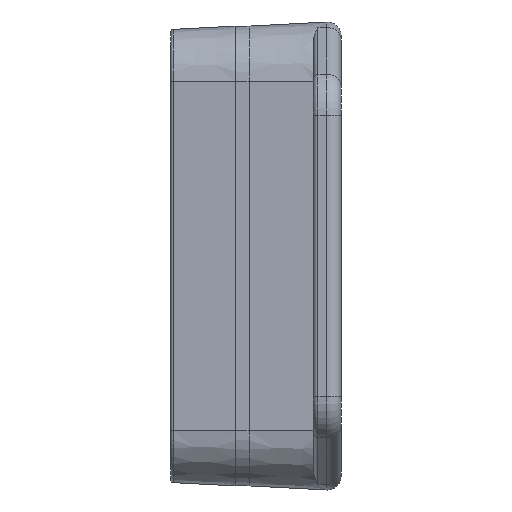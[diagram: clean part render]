
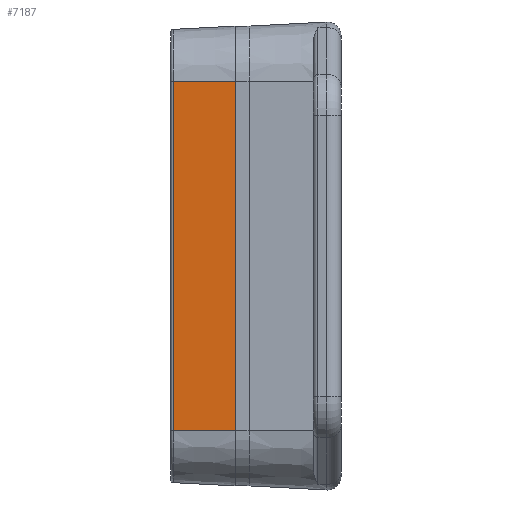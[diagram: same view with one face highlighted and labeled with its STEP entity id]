
A CAD part, left-side view. The second image highlights one B-rep face of the part: STEP entity #7187.
In plain terms, the highlighted planar face has unit normal (-0.999, 0.052, 0).
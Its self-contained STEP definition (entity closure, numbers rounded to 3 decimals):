
#95 = VECTOR ( 'PF-5075-19', #2441, 1000. ) ;
#832 = CARTESIAN_POINT ( 'PF-5075-19',  ( -37.5, 0., 19. ) ) ;
#1087 = CARTESIAN_POINT ( 'PF-5075-19',  ( -37.146, 6.763, -19. ) ) ;
#1637 = CARTESIAN_POINT ( 'PF-5075-19',  ( -37.5, 0., 19. ) ) ;
#1640 = LINE ( 'PF-5075-19', #8372, #4254 ) ;
#1883 = CARTESIAN_POINT ( 'PF-5075-19',  ( -37.5, 0., -19. ) ) ;
#2047 = CARTESIAN_POINT ( 'PF-5075-19',  ( -37.5, 0., 19. ) ) ;
#2441 = DIRECTION ( 'PF-5075-19',  ( 0., 0., -1. ) ) ;
#2475 = PLANE ( 'PF-5075-19',  #2856 ) ;
#2792 = ORIENTED_EDGE ( 'PF-5075-19', *, *, #6059, .F. ) ;
#2856 = AXIS2_PLACEMENT_3D ( 'PF-5075-19', #1637, #5904, #9279 ) ;
#3052 = LINE ( 'PF-5075-19', #6627, #95 ) ;
#3393 = ORIENTED_EDGE ( 'PF-5075-19', *, *, #6398, .T. ) ;
#3465 = FACE_OUTER_BOUND ( 'PF-5075-19', #9362, .T. ) ;
#3539 = DIRECTION ( 'PF-5075-19',  ( -0.052, -0.999, 0. ) ) ;
#3679 = ORIENTED_EDGE ( 'PF-5075-19', *, *, #6653, .T. ) ;
#4167 = VECTOR ( 'PF-5075-19', #3539, 1000. ) ;
#4254 = VECTOR ( 'PF-5075-19', #10010, 1000. ) ;
#5043 = VERTEX_POINT ( 'PF-5075-19', #1087 ) ;
#5904 = DIRECTION ( 'PF-5075-19',  ( -0.999, 0.052, 0. ) ) ;
#5971 = LINE ( 'PF-5075-19', #7501, #9228 ) ;
#6059 = EDGE_CURVE ( 'PF-5075-19', #10525, #9374, #9423, .T. ) ;
#6398 = EDGE_CURVE ( 'PF-5075-19', #10525, #5043, #3052, .T. ) ;
#6627 = CARTESIAN_POINT ( 'PF-5075-19',  ( -37.146, 6.763, 19. ) ) ;
#6653 = EDGE_CURVE ( 'PF-5075-19', #10161, #9374, #5971, .T. ) ;
#6983 = EDGE_CURVE ( 'PF-5075-19', #5043, #10161, #1640, .T. ) ;
#7187 = ADVANCED_FACE ( 'PF-5075-19', ( #3465 ), #2475, .T. ) ;
#7501 = CARTESIAN_POINT ( 'PF-5075-19',  ( -37.5, 0., 19. ) ) ;
#8372 = CARTESIAN_POINT ( 'PF-5075-19',  ( -37.5, 0., -19. ) ) ;
#8901 = CARTESIAN_POINT ( 'PF-5075-19',  ( -37.146, 6.763, 19. ) ) ;
#9228 = VECTOR ( 'PF-5075-19', #10178, 1000. ) ;
#9279 = DIRECTION ( 'PF-5075-19',  ( -0.052, -0.999, 0. ) ) ;
#9362 = EDGE_LOOP ( 'PF-5075-19', ( #2792, #3393, #10557, #3679 ) ) ;
#9374 = VERTEX_POINT ( 'PF-5075-19', #2047 ) ;
#9423 = LINE ( 'PF-5075-19', #832, #4167 ) ;
#10010 = DIRECTION ( 'PF-5075-19',  ( -0.052, -0.999, 0. ) ) ;
#10161 = VERTEX_POINT ( 'PF-5075-19', #1883 ) ;
#10178 = DIRECTION ( 'PF-5075-19',  ( 0., 0., 1. ) ) ;
#10525 = VERTEX_POINT ( 'PF-5075-19', #8901 ) ;
#10557 = ORIENTED_EDGE ( 'PF-5075-19', *, *, #6983, .T. ) ;
